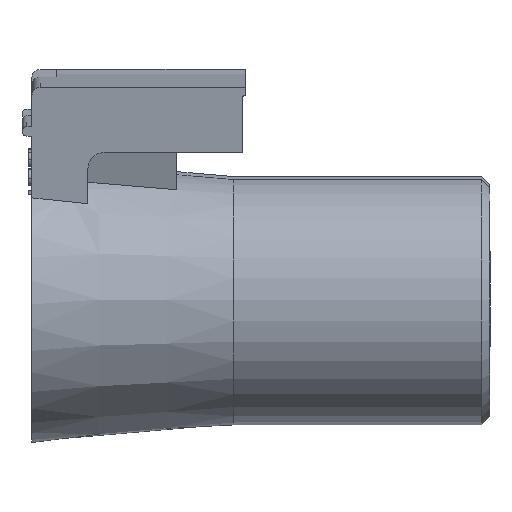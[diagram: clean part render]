
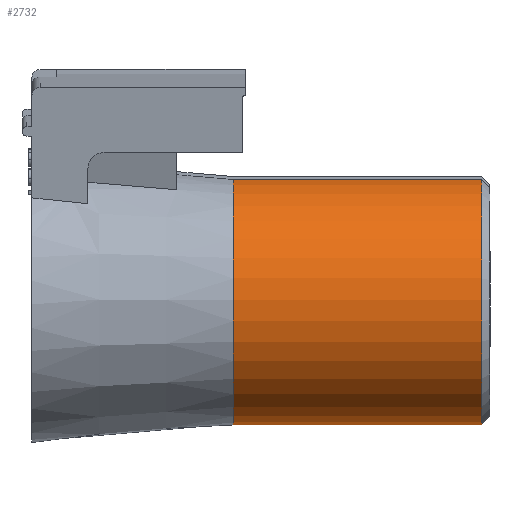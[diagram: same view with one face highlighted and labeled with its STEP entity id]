
A CAD part, front view. The second image highlights one B-rep face of the part: STEP entity #2732.
In plain terms, the highlighted cylindrical face has radius 7.5 mm (diameter 15 mm), a partial arc.
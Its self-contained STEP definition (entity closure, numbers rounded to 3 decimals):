
#63=CIRCLE('',#2853,7.5);
#75=CIRCLE('',#2881,7.5);
#102=CYLINDRICAL_SURFACE('',#2882,7.5);
#351=FACE_OUTER_BOUND('',#504,.T.);
#504=EDGE_LOOP('',(#2420,#2421,#2422,#2423));
#694=LINE('',#4738,#923);
#738=LINE('',#4876,#967);
#923=VECTOR('',#3225,10.);
#967=VECTOR('',#3345,10.);
#1302=VERTEX_POINT('',#4735);
#1303=VERTEX_POINT('',#4737);
#1328=VERTEX_POINT('',#4796);
#1345=VERTEX_POINT('',#4868);
#1657=EDGE_CURVE('',#1303,#1302,#694,.T.);
#1688=EDGE_CURVE('',#1328,#1302,#63,.T.);
#1722=EDGE_CURVE('',#1303,#1345,#75,.T.);
#1723=EDGE_CURVE('',#1345,#1328,#738,.T.);
#2420=ORIENTED_EDGE('',*,*,#1723,.F.);
#2421=ORIENTED_EDGE('',*,*,#1722,.F.);
#2422=ORIENTED_EDGE('',*,*,#1657,.T.);
#2423=ORIENTED_EDGE('',*,*,#1688,.F.);
#2732=ADVANCED_FACE('',(#351),#102,.T.);
#2853=AXIS2_PLACEMENT_3D('',#4801,#3267,#3268);
#2881=AXIS2_PLACEMENT_3D('',#4874,#3341,#3342);
#2882=AXIS2_PLACEMENT_3D('',#4875,#3343,#3344);
#3225=DIRECTION('',(-1.,0.,0.));
#3267=DIRECTION('center_axis',(-1.,0.,0.));
#3268=DIRECTION('ref_axis',(0.,-0.985,-0.174));
#3341=DIRECTION('center_axis',(1.,0.,0.));
#3342=DIRECTION('ref_axis',(0.,0.985,0.174));
#3343=DIRECTION('center_axis',(-1.,0.,0.));
#3344=DIRECTION('ref_axis',(0.,-0.985,-0.174));
#3345=DIRECTION('',(-1.,0.,0.));
#4735=CARTESIAN_POINT('',(11.43,-2.153,7.312));
#4737=CARTESIAN_POINT('',(26.5,-2.153,7.312));
#4738=CARTESIAN_POINT('',(19.215,-2.153,7.312));
#4796=CARTESIAN_POINT('',(11.43,0.227,-7.497));
#4801=CARTESIAN_POINT('Origin',(11.43,-0.851,-0.074));
#4868=CARTESIAN_POINT('',(26.5,0.227,-7.497));
#4874=CARTESIAN_POINT('Origin',(26.5,-0.851,-0.074));
#4875=CARTESIAN_POINT('Origin',(19.215,-0.851,-0.074));
#4876=CARTESIAN_POINT('',(19.215,0.227,-7.497));
